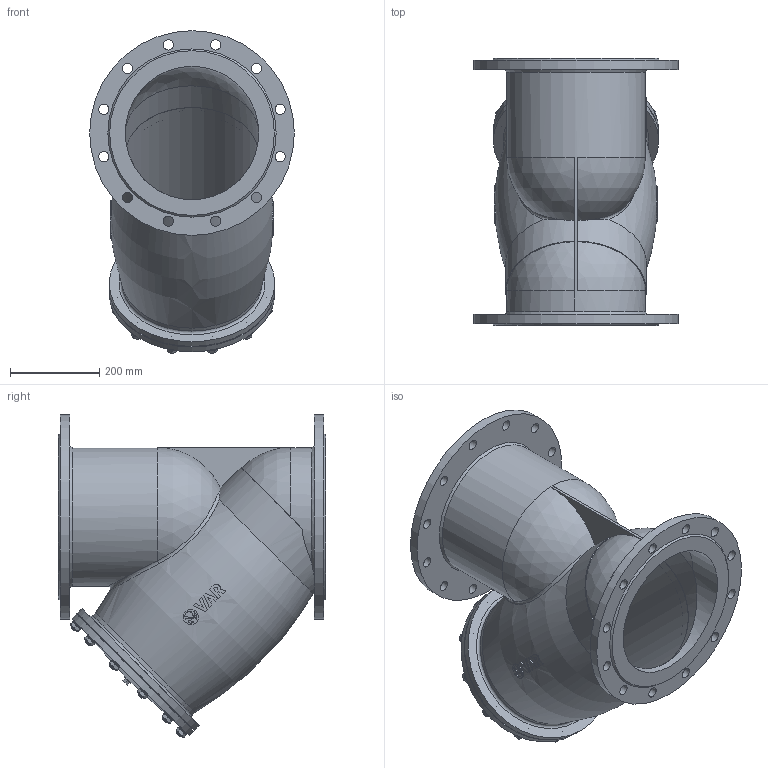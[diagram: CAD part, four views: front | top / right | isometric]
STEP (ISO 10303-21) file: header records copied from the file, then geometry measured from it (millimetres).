
FILE_DESCRIPTION(('STEP AP203'), '1');
FILE_NAME('VAR STRAINER ôèëüòð-ãðÿçåóëîâèòåëü', '', ('UNSPECIFIED'), ('UNSPECIFIED'), 'C3D Converter', 'C3D Toolkit', '');
FILE_SCHEMA(('CONFIG_CONTROL_DESIGN'));
Length unit declared in the file: millimetre
Assembly tree (41 placements, depth 2):
  (unnamed)
    (unnamed)
    (unnamed)
    (unnamed)  x12
    (unnamed)  x12
    (unnamed)  x12
    (unnamed)
    (unnamed)
    (unnamed)
Bounding box: 460 x 600 x 725 mm (x, y, z)
Volume: 12463973.1 mm3; surface area: 3220234.6 mm2
Topology: 42 solids, 42 shells, 672 faces, 1598 edges, 1042 vertices
Faces by surface type: plane 265, extrusion 156, cylinder 121, cone 88, torus 28, sphere 8, bspline 6
Full cylindrical faces by diameter (mm): 12 x36, 13 x12, 14 x14, 21 x1, 23 x24, 24 x12, 34.104 x1, 300 x6, 304 x3, 312 x1, 316 x1, 318 x1, 320 x2, 372 x2, 460 x2
Entity records: 30770 total; most frequent: CARTESIAN_POINT 17913, ORIENTED_EDGE 1994, DIRECTION 1527, EDGE_CURVE 997, VERTEX_POINT 720, EDGE_LOOP 649, B_SPLINE_CURVE_WITH_KNOTS 629, AXIS2_PLACEMENT_3D 546
